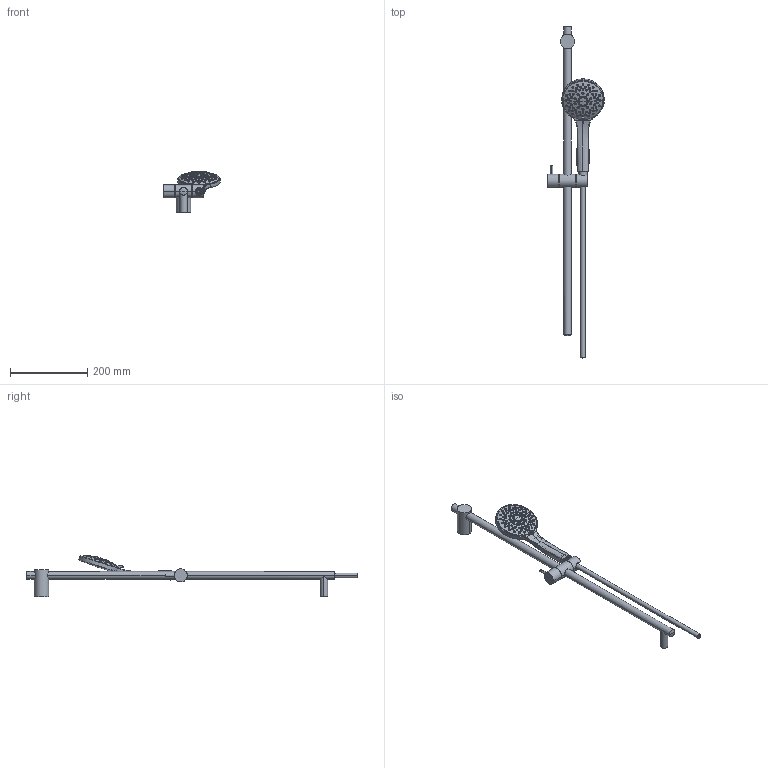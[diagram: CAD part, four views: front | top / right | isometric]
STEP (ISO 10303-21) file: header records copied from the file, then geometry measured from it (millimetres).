
FILE_DESCRIPTION((''),'2;1');
FILE_NAME('F2444_2014_SW0001','2016-08-05T',('ivanv'),(''),'CREO PARAMETRIC BY PTC INC, 2015290','CREO PARAMETRIC BY PTC INC, 2015290','');
FILE_SCHEMA(('CONFIG_CONTROL_DESIGN'));
Length unit declared in the file: millimetre
Products named in the file (1): F2444_2014_SW0001
Bounding box: 145.97 x 858.1 x 106.67 mm (x, y, z)
Volume: 546919.9 mm3; surface area: 186911.5 mm2
Topology: 3 solids, 3 shells, 2903 faces, 7367 edges, 4634 vertices
Faces by surface type: bspline 795, cylinder 679, plane 587, cone 384, torus 317, revolution 103, sphere 36, extrusion 2
Entity records: 209190 total; most frequent: CARTESIAN_POINT 147784, ORIENTED_EDGE 14720, DIRECTION 9446, EDGE_CURVE 7360, VERTEX_POINT 4634, B_SPLINE_CURVE_WITH_KNOTS 3869, AXIS2_PLACEMENT_3D 3742, EDGE_LOOP 3278
